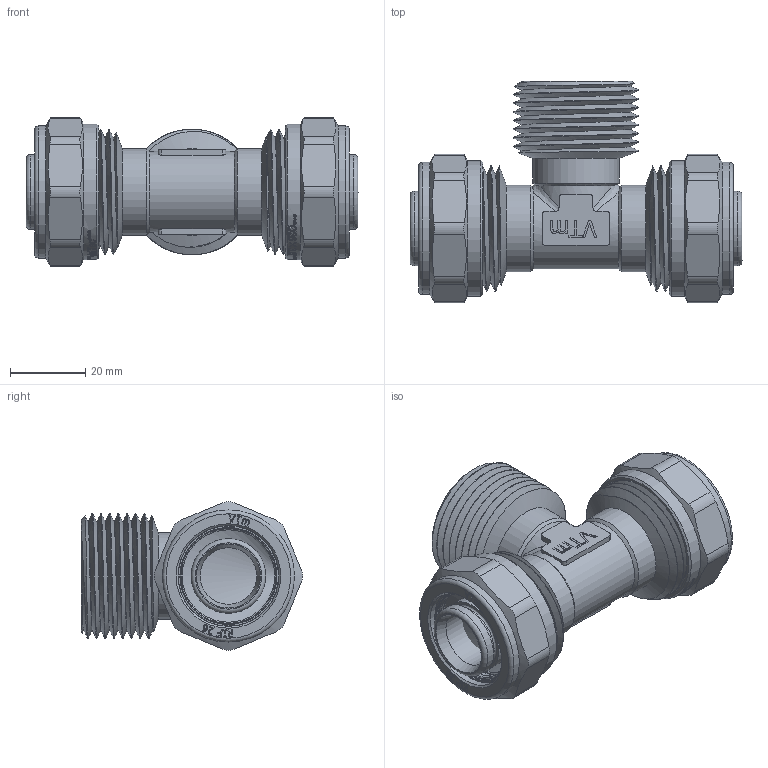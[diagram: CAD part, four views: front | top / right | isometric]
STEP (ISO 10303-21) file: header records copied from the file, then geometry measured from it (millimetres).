
FILE_DESCRIPTION(/* description */ (''),/* implementation_level */ '2;1');
FILE_NAME(/* name */ 'F:\Артём\00000\Работа удаленка\Обжимные фитинги\VTm.333.N.260626.stp',/* time_stamp */ '2020-07-30T10:09:05+03:00',/* author */ ('almis'),/* organization */ (''),/* preprocessor_version */ 'ST-DEVELOPER v18',/* originating_system */ 'Autodesk Inventor 2020',/* authorisation */ '');
FILE_SCHEMA (('AUTOMOTIVE_DESIGN { 1 0 10303 214 3 1 1 }'));
Length unit declared in the file: millimetre
Products named in the file (1): VTm.332.N.260626
Bounding box: 88 x 58.69 x 39.39 mm (x, y, z)
Volume: 44252.6 mm3; surface area: 36778.3 mm2
Topology: 3 solids, 3 shells, 1443 faces, 4112 edges, 2782 vertices
Faces by surface type: bspline 770, plane 393, cylinder 194, torus 48, cone 38
Full cylindrical faces by diameter (mm): 15 x1, 17 x1, 17.4 x4, 19.8 x10, 23 x3, 24.516 x8, 25.435 x10, 26 x1, 26.2 x2, 26.7 x2, 28.5 x2, 28.7 x17, 30.5 x4, 33.3 x8, 35 x2, 36 x2
Entity records: 65465 total; most frequent: CARTESIAN_POINT 32884, ORIENTED_EDGE 8226, DIRECTION 4300, EDGE_CURVE 4113, VERTEX_POINT 2783, B_SPLINE_CURVE_WITH_KNOTS 1738, LINE 1734, VECTOR 1734
